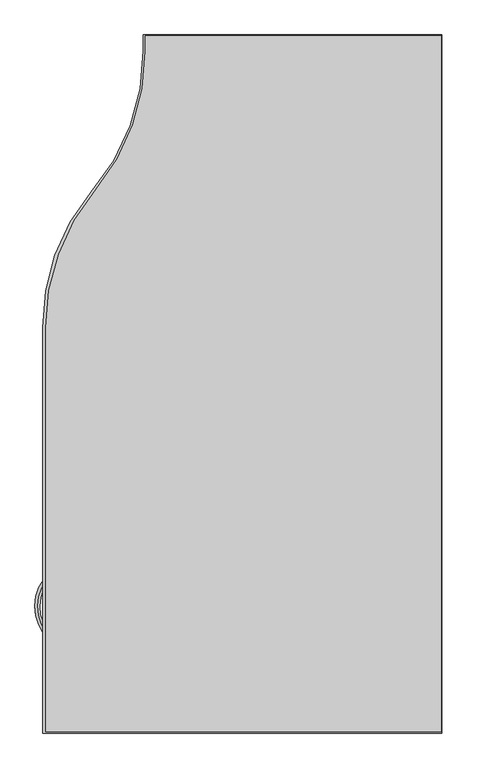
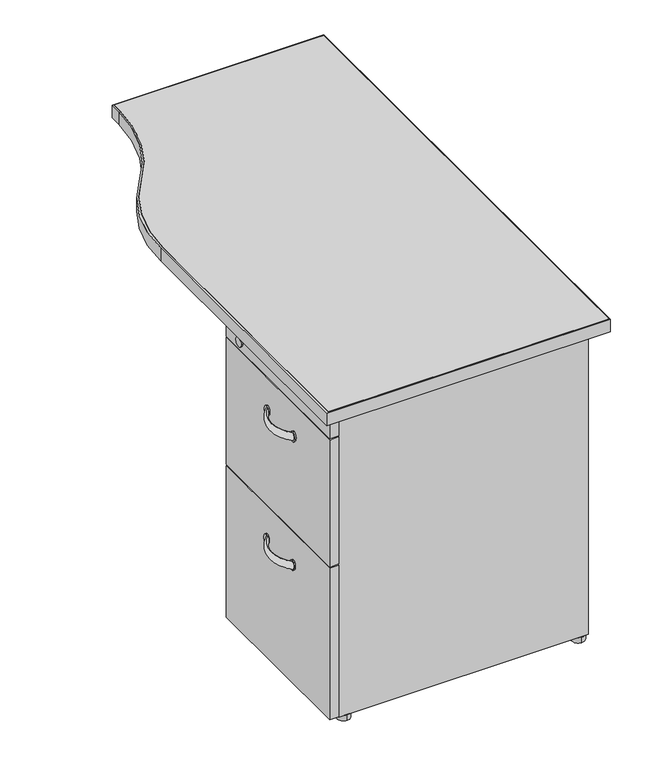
"""IFC4 building model written with IfcOpenShell, lengths in millimetres: furniture geometry, Steelcase - Kick Freestanding - Desk - Single Pedestal Transition Return : 18D x 42W - Right - File/File."""

from ifc_helpers import new_model, si_unit, point, frame, frame_2d, origin, origin_with_axes, place, context, project, spatial, polyline, circle_curve, ellipse_curve, trimmed, segment, composite_curve, outline, extrude, source, transform, mapped, element, save
from ifc_brep_helpers import plane_surface, cylinder_surface, revolved_surface, extruded_surface, advanced_brep


def furniture_3ca5fed2(model_context):
    return source(origin(), model_context, "Body", "SolidModel", [
        advanced_brep(
        [(1567.1281641, -1469.2132511, 586.4818798), (1567.1281641, -1469.2132511, 569.2783404), (1567.7941808, -1370.0632386, 586.4818798), (1567.7941808, -1370.0632386, 569.2783404)],
        [
            (0, 1, ellipse_curve(frame((1567.1281641, -1469.2132511, 577.8801101), z_axis=(0.7327226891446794, -0.6805273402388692, 0.0), x_axis=(0.0, 0.0, -1.0)), 8.6017697, 3.6448177)),
            (1, 0, ellipse_curve(frame((1567.1281641, -1469.2132511, 577.8801101), z_axis=(0.7327226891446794, -0.6805273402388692, 0.0), x_axis=(0.0, 0.0, -1.0)), 8.6017697, 3.6448177)),
            (2, 3, ellipse_curve(frame((1567.7941808, -1370.0632386, 577.8801101), z_axis=(0.7417987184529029, 0.670622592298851, 0.0), x_axis=(0.0, 0.0, -1.0)), 8.6017697, 3.6448177)),
            (3, 2, ellipse_curve(frame((1567.7941808, -1370.0632386, 577.8801101), z_axis=(0.7417987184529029, 0.670622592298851, 0.0), x_axis=(0.0, 0.0, -1.0)), 8.6017697, 3.6448177)),
            (3, 1, circle_curve(frame((1612.8882961, -1419.9433908, 569.2783404), z_axis=(0.0, 0.0, 1.0), x_axis=(-0.6805273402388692, -0.7327226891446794, 0.0)), 67.2421655)),
            (0, 2, circle_curve(frame((1612.8882961, -1419.9433908, 586.4818798), z_axis=(0.0, 0.0, -1.0), x_axis=(-0.6805273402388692, -0.7327226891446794, 0.0)), 67.2421655)),
        ],
        [
            plane_surface(frame((1566.3645897, -1470.0353903, 0.0), z_axis=(0.7327226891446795, -0.6805273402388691, 0.0), x_axis=(0.0, 0.0, 1.0))),
            plane_surface(frame((1567.0417199, -1369.2309157, 0.0), z_axis=(0.7417987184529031, 0.6706225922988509, 0.0), x_axis=(0.0, 0.0, 1.0))),
            revolved_surface(trimmed(ellipse_curve(frame((1567.1281641, -1469.2132511, 577.8801101), z_axis=(0.7327226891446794, -0.6805273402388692, 0.0), x_axis=(0.0, 0.0, -1.0)), 8.6017697, 3.6448177), [point((1567.1281641, -1469.2132511, 586.4818798))], [point((1567.1281641, -1469.2132511, 569.2783404))], True, "CARTESIAN"), (1612.8882961, -1419.9433908, 0.0), (0.0, 0.0, -1.0)),
            revolved_surface(trimmed(ellipse_curve(frame((1567.1281641, -1469.2132511, 577.8801101), z_axis=(0.7327226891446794, -0.6805273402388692, 0.0), x_axis=(0.0, 0.0, -1.0)), 8.6017697, 3.6448177), [point((1567.1281641, -1469.2132511, 569.2783404))], [point((1567.1281641, -1469.2132511, 586.4818798))], True, "CARTESIAN"), (1612.8882961, -1419.9433908, 0.0), (0.0, 0.0, -1.0)),
        ],
        [
            (0, [[1, 2]]),
            (1, [[3, 4]]),
            (2, [[5, -1, 6, -4]]),
            (3, [[-6, -2, -5, -3]]),
        ],
    ),
        advanced_brep(
        [(1567.1281641, -1469.2132511, 293.5881298), (1567.1281641, -1469.2132511, 276.3845904), (1567.7941808, -1370.0632386, 293.5881298), (1567.7941808, -1370.0632386, 276.3845904)],
        [
            (0, 1, ellipse_curve(frame((1567.1281641, -1469.2132511, 284.9863601), z_axis=(0.7327226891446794, -0.6805273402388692, 0.0), x_axis=(0.0, 0.0, -1.0)), 8.6017697, 3.6448177)),
            (1, 0, ellipse_curve(frame((1567.1281641, -1469.2132511, 284.9863601), z_axis=(0.7327226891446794, -0.6805273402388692, 0.0), x_axis=(0.0, 0.0, -1.0)), 8.6017697, 3.6448177)),
            (2, 3, ellipse_curve(frame((1567.7941808, -1370.0632386, 284.9863601), z_axis=(0.7417987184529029, 0.670622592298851, 0.0), x_axis=(0.0, 0.0, -1.0)), 8.6017697, 3.6448177)),
            (3, 2, ellipse_curve(frame((1567.7941808, -1370.0632386, 284.9863601), z_axis=(0.7417987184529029, 0.670622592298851, 0.0), x_axis=(0.0, 0.0, -1.0)), 8.6017697, 3.6448177)),
            (3, 1, circle_curve(frame((1612.8882961, -1419.9433908, 276.3845904), z_axis=(0.0, 0.0, 1.0), x_axis=(-0.6805273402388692, -0.7327226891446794, 0.0)), 67.2421655)),
            (0, 2, circle_curve(frame((1612.8882961, -1419.9433908, 293.5881298), z_axis=(0.0, 0.0, -1.0), x_axis=(-0.6805273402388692, -0.7327226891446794, 0.0)), 67.2421655)),
        ],
        [
            plane_surface(frame((1566.3645897, -1470.0353903, 0.0), z_axis=(0.7327226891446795, -0.6805273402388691, 0.0), x_axis=(0.0, 0.0, 1.0))),
            plane_surface(frame((1567.0417199, -1369.2309157, 0.0), z_axis=(0.7417987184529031, 0.6706225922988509, 0.0), x_axis=(0.0, 0.0, 1.0))),
            revolved_surface(trimmed(ellipse_curve(frame((1567.1281641, -1469.2132511, 284.9863601), z_axis=(0.7327226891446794, -0.6805273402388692, 0.0), x_axis=(0.0, 0.0, -1.0)), 8.6017697, 3.6448177), [point((1567.1281641, -1469.2132511, 293.5881298))], [point((1567.1281641, -1469.2132511, 276.3845904))], True, "CARTESIAN"), (1612.8882961, -1419.9433908, 0.0), (0.0, 0.0, -1.0)),
            revolved_surface(trimmed(ellipse_curve(frame((1567.1281641, -1469.2132511, 284.9863601), z_axis=(0.7327226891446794, -0.6805273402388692, 0.0), x_axis=(0.0, 0.0, -1.0)), 8.6017697, 3.6448177), [point((1567.1281641, -1469.2132511, 276.3845904))], [point((1567.1281641, -1469.2132511, 293.5881298))], True, "CARTESIAN"), (1612.8882961, -1419.9433908, 0.0), (0.0, 0.0, -1.0)),
        ],
        [
            (0, [[1, 2]]),
            (1, [[3, 4]]),
            (2, [[5, -1, 6, -4]]),
            (3, [[-6, -2, -5, -3]]),
        ],
    ),
        advanced_brep(
        [(1564.8733086, -1276.6380273, 671.1566635), (1564.8733086, -1256.3180273, 671.1566635), (1567.9720601, -1276.6380273, 671.1566635), (1567.9720601, -1256.3180273, 671.1566635)],
        [
            (0, 1, circle_curve(frame((1564.8733086, -1266.4780273, 671.1566635), z_axis=(-1.0, 0.0, 0.0), x_axis=(0.0, 1.0, 0.0)), 10.16)),
            (1, 0, circle_curve(frame((1564.8733086, -1266.4780273, 671.1566635), z_axis=(-1.0, 0.0, 0.0), x_axis=(0.0, 1.0, 0.0)), 10.16)),
            (2, 3, circle_curve(frame((1567.9720601, -1266.4780273, 671.1566635), z_axis=(1.0, 0.0, 0.0), x_axis=(0.0, 1.0, 0.0)), 10.16)),
            (3, 2, circle_curve(frame((1567.9720601, -1266.4780273, 671.1566635), z_axis=(1.0, 0.0, 0.0), x_axis=(0.0, 1.0, 0.0)), 10.16)),
            (0, 2),
            (3, 1),
        ],
        [
            plane_surface(frame((1564.8733086, -1256.3180273, 671.1566635), z_axis=(-1.0, 0.0, 0.0), x_axis=(0.0, 0.0, -1.0))),
            plane_surface(frame((1567.9720601, -1256.3180273, 671.1566635), z_axis=(1.0, 0.0, 0.0), x_axis=(0.0, 0.0, 1.0))),
            cylinder_surface(frame((1567.9720601, -1266.4780273, 671.1566635), z_axis=(-1.0, 0.0, 0.0), x_axis=(0.0, 1.0, 0.0)), 10.16),
        ],
        [
            (0, [[1, 2]]),
            (1, [[3, 4]]),
            (2, [[-1, 5, -4, 6]]),
            (2, [[-2, -6, -3, -5]]),
        ],
    ),
        advanced_brep(
        [(1564.8733086, -1467.8140492, 589.4466513), (1564.8733086, -1467.8140492, 566.5866513), (1567.9720601, -1467.8140492, 589.4466513), (1567.9720601, -1467.8140492, 566.5866513)],
        [
            (0, 1, ellipse_curve(frame((1564.8733086, -1467.8140492, 578.0166513), z_axis=(-1.0, 0.0, 0.0), x_axis=(0.0, 0.0, -1.0)), 11.43, 8.0054005)),
            (1, 0, ellipse_curve(frame((1564.8733086, -1467.8140492, 578.0166513), z_axis=(-1.0, 0.0, 0.0), x_axis=(0.0, 0.0, -1.0)), 11.43, 8.0054005)),
            (2, 3, ellipse_curve(frame((1567.9720601, -1467.8140492, 578.0166513), z_axis=(1.0, 0.0, 0.0), x_axis=(0.0, 0.0, -1.0)), 11.43, 8.0054005)),
            (3, 2, ellipse_curve(frame((1567.9720601, -1467.8140492, 578.0166513), z_axis=(1.0, 0.0, 0.0), x_axis=(0.0, 0.0, -1.0)), 11.43, 8.0054005)),
            (0, 2),
            (3, 1),
        ],
        [
            plane_surface(frame((1564.8733086, -1256.3180273, 671.1566635), z_axis=(-1.0, 0.0, 0.0), x_axis=(0.0, 0.0, -1.0))),
            plane_surface(frame((1567.9720601, -1256.3180273, 671.1566635), z_axis=(1.0, 0.0, 0.0), x_axis=(0.0, 0.0, 1.0))),
            extruded_surface(trimmed(ellipse_curve(frame((1571.9598601, -1467.8140492, 578.0166513), z_axis=(-1.0, 0.0, 0.0), x_axis=(0.0, 0.0, -1.0)), 11.43, 8.0054005), [point((1571.9598601, -1467.8140492, 589.4466513))], [point((1571.9598601, -1467.8140492, 566.5866513))], True, "CARTESIAN"), (-3.098751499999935, 0.0, 0.0), 3.098751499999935),
            extruded_surface(trimmed(ellipse_curve(frame((1571.9598601, -1467.8140492, 578.0166513), z_axis=(-1.0, 0.0, 0.0), x_axis=(0.0, 0.0, -1.0)), 11.43, 8.0054005), [point((1571.9598601, -1467.8140492, 566.5866513))], [point((1571.9598601, -1467.8140492, 589.4466513))], True, "CARTESIAN"), (-3.098751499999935, 0.0, 0.0), 3.098751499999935),
        ],
        [
            (0, [[1, 2]]),
            (1, [[3, 4]]),
            (2, [[-1, 5, -4, 6]]),
            (3, [[-2, -6, -3, -5]]),
        ],
    ),
        advanced_brep(
        [(1564.8733086, -1370.4852323, 589.4466513), (1564.8733086, -1370.4852323, 566.5866513), (1567.9720601, -1370.4852323, 589.4466513), (1567.9720601, -1370.4852323, 566.5866513)],
        [
            (0, 1, ellipse_curve(frame((1564.8733086, -1370.4852323, 578.0166513), z_axis=(-1.0, 0.0, 0.0), x_axis=(0.0, 0.0, -1.0)), 11.43, 8.0054005)),
            (1, 0, ellipse_curve(frame((1564.8733086, -1370.4852323, 578.0166513), z_axis=(-1.0, 0.0, 0.0), x_axis=(0.0, 0.0, -1.0)), 11.43, 8.0054005)),
            (2, 3, ellipse_curve(frame((1567.9720601, -1370.4852323, 578.0166513), z_axis=(1.0, 0.0, 0.0), x_axis=(0.0, 0.0, -1.0)), 11.43, 8.0054005)),
            (3, 2, ellipse_curve(frame((1567.9720601, -1370.4852323, 578.0166513), z_axis=(1.0, 0.0, 0.0), x_axis=(0.0, 0.0, -1.0)), 11.43, 8.0054005)),
            (0, 2),
            (3, 1),
        ],
        [
            plane_surface(frame((1564.8733086, -1256.3180273, 671.1566635), z_axis=(-1.0, 0.0, 0.0), x_axis=(0.0, 0.0, -1.0))),
            plane_surface(frame((1567.9720601, -1256.3180273, 671.1566635), z_axis=(1.0, 0.0, 0.0), x_axis=(0.0, 0.0, 1.0))),
            extruded_surface(trimmed(ellipse_curve(frame((1571.9598601, -1370.4852323, 578.0166513), z_axis=(-1.0, 0.0, 0.0), x_axis=(0.0, 0.0, -1.0)), 11.43, 8.0054005), [point((1571.9598601, -1370.4852323, 589.4466513))], [point((1571.9598601, -1370.4852323, 566.5866513))], True, "CARTESIAN"), (-3.098751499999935, 0.0, 0.0), 3.098751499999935),
            extruded_surface(trimmed(ellipse_curve(frame((1571.9598601, -1370.4852323, 578.0166513), z_axis=(-1.0, 0.0, 0.0), x_axis=(0.0, 0.0, -1.0)), 11.43, 8.0054005), [point((1571.9598601, -1370.4852323, 566.5866513))], [point((1571.9598601, -1370.4852323, 589.4466513))], True, "CARTESIAN"), (-3.098751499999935, 0.0, 0.0), 3.098751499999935),
        ],
        [
            (0, [[1, 2]]),
            (1, [[3, 4]]),
            (2, [[-1, 5, -4, 6]]),
            (3, [[-2, -6, -3, -5]]),
        ],
    ),
        advanced_brep(
        [(1564.8733086, -1465.7551434, 296.0079573), (1564.8733086, -1465.7551434, 273.1479573), (1567.9720601, -1465.7551434, 296.0079573), (1567.9720601, -1465.7551434, 273.1479573)],
        [
            (0, 1, ellipse_curve(frame((1564.8733086, -1465.7551434, 284.5779573), z_axis=(-1.0, 0.0, 0.0), x_axis=(0.0, 0.0, -1.0)), 11.43, 8.0054005)),
            (1, 0, ellipse_curve(frame((1564.8733086, -1465.7551434, 284.5779573), z_axis=(-1.0, 0.0, 0.0), x_axis=(0.0, 0.0, -1.0)), 11.43, 8.0054005)),
            (2, 3, ellipse_curve(frame((1567.9720601, -1465.7551434, 284.5779573), z_axis=(1.0, 0.0, 0.0), x_axis=(0.0, 0.0, -1.0)), 11.43, 8.0054005)),
            (3, 2, ellipse_curve(frame((1567.9720601, -1465.7551434, 284.5779573), z_axis=(1.0, 0.0, 0.0), x_axis=(0.0, 0.0, -1.0)), 11.43, 8.0054005)),
            (0, 2),
            (3, 1),
        ],
        [
            plane_surface(frame((1564.8733086, -1256.3180273, 671.1566635), z_axis=(-1.0, 0.0, 0.0), x_axis=(0.0, 0.0, -1.0))),
            plane_surface(frame((1567.9720601, -1256.3180273, 671.1566635), z_axis=(1.0, 0.0, 0.0), x_axis=(0.0, 0.0, 1.0))),
            extruded_surface(trimmed(ellipse_curve(frame((1571.9598601, -1465.7551434, 284.5779573), z_axis=(-1.0, 0.0, 0.0), x_axis=(0.0, 0.0, -1.0)), 11.43, 8.0054005), [point((1571.9598601, -1465.7551434, 296.0079573))], [point((1571.9598601, -1465.7551434, 273.1479573))], True, "CARTESIAN"), (-3.098751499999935, 0.0, 0.0), 3.098751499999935),
            extruded_surface(trimmed(ellipse_curve(frame((1571.9598601, -1465.7551434, 284.5779573), z_axis=(-1.0, 0.0, 0.0), x_axis=(0.0, 0.0, -1.0)), 11.43, 8.0054005), [point((1571.9598601, -1465.7551434, 273.1479573))], [point((1571.9598601, -1465.7551434, 296.0079573))], True, "CARTESIAN"), (-3.098751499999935, 0.0, 0.0), 3.098751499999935),
        ],
        [
            (0, [[1, 2]]),
            (1, [[3, 4]]),
            (2, [[-1, 5, -4, 6]]),
            (3, [[-2, -6, -3, -5]]),
        ],
    ),
        advanced_brep(
        [(1564.8733086, -1368.4263266, 296.0079573), (1564.8733086, -1368.4263266, 273.1479573), (1567.9720601, -1368.4263266, 296.0079573), (1567.9720601, -1368.4263266, 273.1479573)],
        [
            (0, 1, ellipse_curve(frame((1564.8733086, -1368.4263266, 284.5779573), z_axis=(-1.0, 0.0, 0.0), x_axis=(0.0, 0.0, -1.0)), 11.43, 8.0054005)),
            (1, 0, ellipse_curve(frame((1564.8733086, -1368.4263266, 284.5779573), z_axis=(-1.0, 0.0, 0.0), x_axis=(0.0, 0.0, -1.0)), 11.43, 8.0054005)),
            (2, 3, ellipse_curve(frame((1567.9720601, -1368.4263266, 284.5779573), z_axis=(1.0, 0.0, 0.0), x_axis=(0.0, 0.0, -1.0)), 11.43, 8.0054005)),
            (3, 2, ellipse_curve(frame((1567.9720601, -1368.4263266, 284.5779573), z_axis=(1.0, 0.0, 0.0), x_axis=(0.0, 0.0, -1.0)), 11.43, 8.0054005)),
            (0, 2),
            (3, 1),
        ],
        [
            plane_surface(frame((1564.8733086, -1256.3180273, 671.1566635), z_axis=(-1.0, 0.0, 0.0), x_axis=(0.0, 0.0, -1.0))),
            plane_surface(frame((1567.9720601, -1256.3180273, 671.1566635), z_axis=(1.0, 0.0, 0.0), x_axis=(0.0, 0.0, 1.0))),
            extruded_surface(trimmed(ellipse_curve(frame((1571.9598601, -1368.4263266, 284.5779573), z_axis=(-1.0, 0.0, 0.0), x_axis=(0.0, 0.0, -1.0)), 11.43, 8.0054005), [point((1571.9598601, -1368.4263266, 296.0079573))], [point((1571.9598601, -1368.4263266, 273.1479573))], True, "CARTESIAN"), (-3.098751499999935, 0.0, 0.0), 3.098751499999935),
            extruded_surface(trimmed(ellipse_curve(frame((1571.9598601, -1368.4263266, 284.5779573), z_axis=(-1.0, 0.0, 0.0), x_axis=(0.0, 0.0, -1.0)), 11.43, 8.0054005), [point((1571.9598601, -1368.4263266, 273.1479573))], [point((1571.9598601, -1368.4263266, 296.0079573))], True, "CARTESIAN"), (-3.098751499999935, 0.0, 0.0), 3.098751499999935),
        ],
        [
            (0, [[1, 2]]),
            (1, [[3, 4]]),
            (2, [[-1, 5, -4, 6]]),
            (3, [[-2, -6, -3, -5]]),
        ],
    ),
        extrude(outline(polyline([(1567.9720601, -1600.3145982), (1567.9720601, -1215.3776054), (1587.9111086, -1215.3776054), (1587.9111086, -1600.3145982), (1567.9720601, -1600.3145982)])), frame((0.0, 0.0, 360.6545895), z_axis=(0.0, 0.0, 1.0), x_axis=(1.0, 0.0, 0.0)), (0.0, 0.0, 1.0), 288.9250242),
        extrude(outline(polyline([(1567.9720601, -1600.3145982), (1567.9720601, -1215.3776054), (1587.9111086, -1215.3776054), (1587.9111086, -1600.3145982), (1567.9720601, -1600.3145982)])), frame((0.0, 0.0, 12.7), z_axis=(0.0, 0.0, 1.0), x_axis=(1.0, 0.0, 0.0)), (0.0, 0.0, 1.0), 344.7796016),
        extrude(outline(polyline([(1567.9720601, -1600.3145982), (1567.9720601, -1215.3776054), (1587.9111086, -1215.3776054), (1587.9111086, -1600.3145982), (1567.9720601, -1600.3145982)])), frame((0.0, 0.0, 652.7545653), z_axis=(0.0, 0.0, 1.0), x_axis=(1.0, 0.0, 0.0)), (0.0, 0.0, 1.0), 40.6400339),
        extrude(outline(composite_curve([segment(trimmed(circle_curve(frame_2d((2110.0114425, -1587.7382652)), 13.97), [point((2110.0114425, -1601.7082652))], [point((2110.0114425, -1573.7682652))], False, "CARTESIAN"), True, "CONTINUOUS"), segment(trimmed(circle_curve(frame_2d((2110.0114425, -1587.7382652)), 13.97), [point((2110.0114425, -1573.7682652))], [point((2110.0114425, -1601.7082652))], False, "CARTESIAN"), True, "CONTINUOUS")], self_intersect=False)), origin_with_axes(), (0.0, 0.0, 1.0), 12.446),
        extrude(outline(composite_curve([segment(trimmed(circle_curve(frame_2d((1605.0594425, -1587.7382652)), 13.97), [point((1605.0594425, -1601.7082652))], [point((1605.0594425, -1573.7682652))], False, "CARTESIAN"), True, "CONTINUOUS"), segment(trimmed(circle_curve(frame_2d((1605.0594425, -1587.7382652)), 13.97), [point((1605.0594425, -1573.7682652))], [point((1605.0594425, -1601.7082652))], False, "CARTESIAN"), True, "CONTINUOUS")], self_intersect=False)), origin_with_axes(), (0.0, 0.0, 1.0), 12.446),
        extrude(outline(composite_curve([segment(trimmed(circle_curve(frame_2d((2110.0114425, -1228.0776054)), 13.97), [point((2110.0114425, -1242.0476054))], [point((2110.0114425, -1214.1076054))], False, "CARTESIAN"), True, "CONTINUOUS"), segment(trimmed(circle_curve(frame_2d((2110.0114425, -1228.0776054)), 13.97), [point((2110.0114425, -1214.1076054))], [point((2110.0114425, -1242.0476054))], False, "CARTESIAN"), True, "CONTINUOUS")], self_intersect=False)), origin_with_axes(), (0.0, 0.0, 1.0), 12.446),
        extrude(outline(composite_curve([segment(trimmed(circle_curve(frame_2d((1604.2584597, -1228.0776054)), 12.7), [point((1604.2584597, -1240.7776054))], [point((1604.2584597, -1215.3776054))], False, "CARTESIAN"), True, "CONTINUOUS"), segment(trimmed(circle_curve(frame_2d((1604.2584597, -1228.0776054)), 12.7), [point((1604.2584597, -1215.3776054))], [point((1604.2584597, -1240.7776054))], False, "CARTESIAN"), True, "CONTINUOUS")], self_intersect=False)), origin_with_axes(), (0.0, 0.0, 1.0), 12.446),
        extrude(outline(polyline([(2124.4860601, -1215.3776054), (2124.4860601, -1600.3145982), (1587.9111086, -1600.3145982), (1587.9111086, -1215.3776054), (2124.4860601, -1215.3776054)]), holes=[polyline([(2099.0860609, -1235.2149846), (1608.4850708, -1235.2149846), (1608.4850708, -1580.4771996), (2099.0860609, -1580.4771996), (2099.0860609, -1235.2149846)])]), frame((0.0, 0.0, 12.446), z_axis=(0.0, 0.0, 1.0), x_axis=(1.0, 0.0, 0.0)), (0.0, 0.0, 1.0), 682.498),
        extrude(outline(composite_curve([segment(polyline([(1707.9294594, -546.8145152), (2163.8594425, -546.8145152), (2163.8594425, -1613.6145152), (1554.2594425, -1613.6145152), (1554.2594425, -994.1085152)]), True, "CONTINUOUS"), segment(trimmed(circle_curve(frame_2d((1864.0239413, -987.7058619)), 309.8306613), [point((1554.2594425, -994.1085152))], [point((1628.457587, -786.4509703))], False, "CARTESIAN"), True, "CONTINUOUS"), segment(trimmed(circle_curve(frame_2d((1376.3728371, -571.0836731)), 331.5566223), [point((1628.457587, -786.4509703))], [point((1707.9294594, -571.0836731))], True, "CARTESIAN"), True, "CONTINUOUS"), segment(polyline([(1707.9294594, -571.0836731), (1707.9294594, -546.8145152)]), True, "CONTINUOUS")], self_intersect=False), holes=[composite_curve([segment(polyline([(1710.9012257, -547.8051152), (1710.9012257, -572.1320079)]), True, "CONTINUOUS"), segment(trimmed(circle_curve(frame_2d((1386.0725345, -574.5942763)), 324.8380233), [point((1710.9012257, -572.1320079))], [point((1635.1600947, -783.1011797))], False, "CARTESIAN"), True, "CONTINUOUS"), segment(trimmed(circle_curve(frame_2d((1887.2347336, -994.1085152)), 328.7335079), [point((1635.1600947, -783.1011797))], [point((1558.5012257, -994.1085152))], True, "CARTESIAN"), True, "CONTINUOUS"), segment(polyline([(1558.5012257, -994.1085152), (1558.5012257, -1611.8619332), (2162.8688425, -1611.8619332), (2162.8688425, -547.8051152), (1710.9012257, -547.8051152)]), True, "CONTINUOUS")], self_intersect=False)]), frame((0.0, 0.0, 694.944), z_axis=(0.0, 0.0, 1.0), x_axis=(1.0, 0.0, 0.0)), (0.0, 0.0, 1.0), 28.956),
        extrude(outline(composite_curve([segment(polyline([(2162.8688425, -547.8051152), (2162.8688425, -1611.8619332), (1558.5012257, -1611.8619332), (1558.5012257, -994.1085152)]), True, "CONTINUOUS"), segment(trimmed(circle_curve(frame_2d((1887.2347336, -994.1085152)), 328.7335079), [point((1558.5012257, -994.1085152))], [point((1635.1600947, -783.1011797))], False, "CARTESIAN"), True, "CONTINUOUS"), segment(trimmed(circle_curve(frame_2d((1386.0725345, -574.5942763)), 324.8380233), [point((1635.1600947, -783.1011797))], [point((1710.9012257, -572.1320079))], True, "CARTESIAN"), True, "CONTINUOUS"), segment(polyline([(1710.9012257, -572.1320079), (1710.9012257, -547.8051152), (2162.8688425, -547.8051152)]), True, "CONTINUOUS")], self_intersect=False)), frame((0.0, 0.0, 694.944), z_axis=(0.0, 0.0, 1.0), x_axis=(1.0, 0.0, 0.0)), (0.0, 0.0, 1.0), 28.956),
    ])


if __name__ == "__main__":
    model = new_model("IFC4")
    model_context = context("Model", 3, world=origin())
    ifc_project = project(units=[si_unit("LENGTHUNIT", "METRE", prefix="MILLI")], contexts=[model_context])
    site = spatial("IfcSite", under=ifc_project)
    building = spatial("IfcBuilding", under=site)
    placement = place(None, origin())
    furniture_shape = furniture_3ca5fed2(model_context)
    element("IfcFurniture", 1, ObjectType="Steelcase - Kick Freestanding - Desk - Single Pedestal Transition Return : 18D x 42W - Right - File/File", at=placement, inside=building, context=model_context, shape_type="MappedRepresentation", body=[
        mapped(furniture_shape, transform((0.0, 0.0, 0.0), x_axis=(1.0, 0.0, 0.0), y_axis=(0.0, 1.0, 0.0), z_axis=(0.0, 0.0, 1.0))),
    ])
    save(model, "model.ifc")
